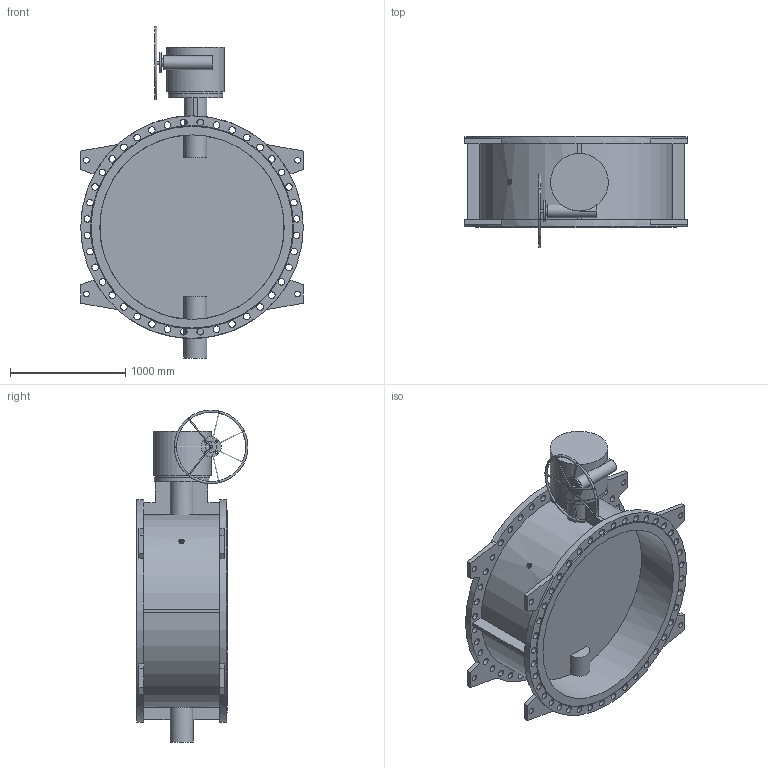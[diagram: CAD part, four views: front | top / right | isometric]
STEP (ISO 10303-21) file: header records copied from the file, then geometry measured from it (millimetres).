
FILE_DESCRIPTION(('STEP AP203'), '1');
FILE_NAME('Çàòâîð 023F.Z DN1600 PN16_ìàõ', '', ('UNSPECIFIED'), ('UNSPECIFIED'), 'ASCON STEP Converter 1.6', 'ASCON Math Kernel', '');
FILE_SCHEMA(('CONFIG_CONTROL_DESIGN'));
Length unit declared in the file: millimetre
Bounding box: 1930 x 971 x 2879 mm (x, y, z)
Volume: 565787728.4 mm3; surface area: 18543659.5 mm2
Topology: 2 solids, 2 shells, 268 faces, 694 edges, 453 vertices
Faces by surface type: cylinder 146, plane 119, cone 2, torus 1
Full cylindrical faces by diameter (mm): 10 x7, 18 x4, 24 x1, 33 x8, 39 x8, 50 x8, 57 x80, 70 x1, 100 x1, 120 x1, 175 x1, 200 x1, 475 x2, 500 x1, 1600 x2, 1930 x2
Entity records: 11928 total; most frequent: CARTESIAN_POINT 3109, DIRECTION 1407, ORIENTED_EDGE 1116, AXIS2_PLACEMENT_3D 609, EDGE_LOOP 607, EDGE_CURVE 558, VERTEX_POINT 451, FACE_BOUND 375
